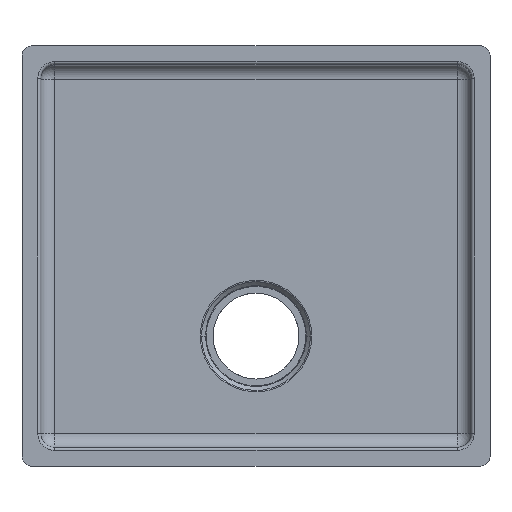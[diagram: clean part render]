
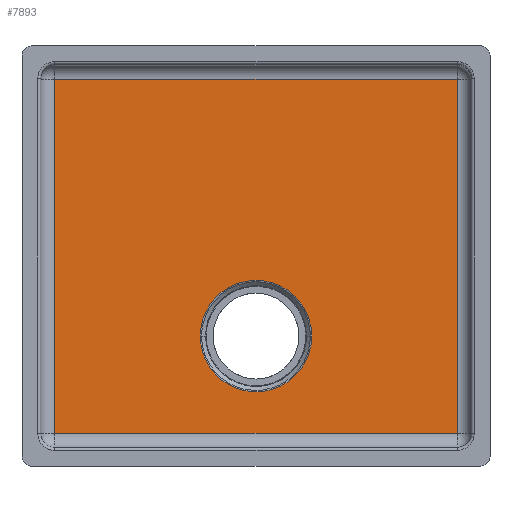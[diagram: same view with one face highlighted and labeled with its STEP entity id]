
A CAD part, top view. The second image highlights one B-rep face of the part: STEP entity #7893.
In plain terms, the highlighted planar face has unit normal (0, 0, 1).
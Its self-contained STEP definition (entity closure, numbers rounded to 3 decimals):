
#6943=CARTESIAN_POINT('Vertex',(-210.5,185.5,-194.)) ;
#7147=CARTESIAN_POINT('Vertex',(210.5,185.5,-194.)) ;
#7317=CARTESIAN_POINT('Vertex',(210.5,-185.5,-194.)) ;
#7510=CARTESIAN_POINT('Vertex',(-210.5,-185.5,-194.)) ;
#7636=CARTESIAN_POINT('Line Origine',(0.,185.5,-194.)) ;
#7653=CARTESIAN_POINT('Line Origine',(-210.5,0.,-194.)) ;
#7670=CARTESIAN_POINT('Line Origine',(210.5,0.,-194.)) ;
#7687=CARTESIAN_POINT('Line Origine',(0.,-185.5,-194.)) ;
#7795=CARTESIAN_POINT('Axis2P3D Location',(225.5,185.5,-194.)) ;
#7807=CARTESIAN_POINT('Control Point',(58.328,-83.5,-194.)) ;
#7808=CARTESIAN_POINT('Control Point',(58.328,-83.891,-194.)) ;
#7809=CARTESIAN_POINT('Control Point',(58.325,-84.283,-194.)) ;
#7810=CARTESIAN_POINT('Control Point',(58.319,-84.677,-194.)) ;
#7811=CARTESIAN_POINT('Control Point',(58.299,-85.462,-194.)) ;
#7812=CARTESIAN_POINT('Control Point',(58.266,-86.247,-194.)) ;
#7813=CARTESIAN_POINT('Control Point',(58.246,-86.64,-194.)) ;
#7814=CARTESIAN_POINT('Control Point',(58.176,-87.816,-194.)) ;
#7815=CARTESIAN_POINT('Control Point',(58.077,-88.99,-194.)) ;
#7816=CARTESIAN_POINT('Control Point',(57.998,-89.772,-194.)) ;
#7817=CARTESIAN_POINT('Control Point',(57.721,-92.113,-194.)) ;
#7818=CARTESIAN_POINT('Control Point',(57.326,-94.437,-194.)) ;
#7819=CARTESIAN_POINT('Control Point',(57.011,-95.977,-194.)) ;
#7820=CARTESIAN_POINT('Control Point',(55.91,-100.563,-194.)) ;
#7821=CARTESIAN_POINT('Control Point',(54.35,-105.021,-194.)) ;
#7822=CARTESIAN_POINT('Control Point',(53.111,-107.918,-194.)) ;
#7823=CARTESIAN_POINT('Control Point',(49.11,-115.768,-194.)) ;
#7824=CARTESIAN_POINT('Control Point',(43.687,-122.768,-194.)) ;
#7825=CARTESIAN_POINT('Control Point',(39.672,-126.821,-194.)) ;
#7826=CARTESIAN_POINT('Control Point',(30.739,-133.875,-194.)) ;
#7827=CARTESIAN_POINT('Control Point',(20.38,-138.593,-194.)) ;
#7828=CARTESIAN_POINT('Control Point',(14.939,-140.31,-194.)) ;
#7829=CARTESIAN_POINT('Control Point',(3.75,-142.393,-194.)) ;
#7830=CARTESIAN_POINT('Control Point',(-7.611,-141.746,-194.)) ;
#7831=CARTESIAN_POINT('Control Point',(-13.225,-140.733,-194.)) ;
#7832=CARTESIAN_POINT('Control Point',(-24.098,-137.368,-194.)) ;
#7833=CARTESIAN_POINT('Control Point',(-33.855,-131.504,-194.)) ;
#7834=CARTESIAN_POINT('Control Point',(-38.352,-127.994,-194.)) ;
#7835=CARTESIAN_POINT('Control Point',(-45.148,-121.21,-194.)) ;
#7836=CARTESIAN_POINT('Control Point',(-50.413,-113.223,-194.)) ;
#7837=CARTESIAN_POINT('Control Point',(-52.281,-109.798,-194.)) ;
#7838=CARTESIAN_POINT('Control Point',(-54.643,-104.451,-194.)) ;
#7839=CARTESIAN_POINT('Control Point',(-56.318,-98.867,-194.)) ;
#7840=CARTESIAN_POINT('Control Point',(-56.799,-96.983,-194.)) ;
#7841=CARTESIAN_POINT('Control Point',(-57.401,-94.13,-194.)) ;
#7842=CARTESIAN_POINT('Control Point',(-57.824,-91.247,-194.)) ;
#7843=CARTESIAN_POINT('Control Point',(-57.945,-90.284,-194.)) ;
#7844=CARTESIAN_POINT('Control Point',(-58.147,-88.352,-194.)) ;
#7845=CARTESIAN_POINT('Control Point',(-58.268,-86.413,-194.)) ;
#7846=CARTESIAN_POINT('Control Point',(-58.308,-85.444,-194.)) ;
#7847=CARTESIAN_POINT('Control Point',(-58.328,-84.471,-194.)) ;
#7848=CARTESIAN_POINT('Control Point',(-58.328,-83.5,-194.)) ;
#7849=CARTESIAN_POINT('Vertex',(-58.328,-83.5,-194.)) ;
#7851=CARTESIAN_POINT('Vertex',(58.328,-83.5,-194.)) ;
#7855=CARTESIAN_POINT('Control Point',(58.328,-83.5,-194.)) ;
#7856=CARTESIAN_POINT('Control Point',(58.328,-82.037,-194.)) ;
#7857=CARTESIAN_POINT('Control Point',(58.283,-80.572,-194.)) ;
#7858=CARTESIAN_POINT('Control Point',(58.191,-79.112,-194.)) ;
#7859=CARTESIAN_POINT('Control Point',(57.916,-76.196,-194.)) ;
#7860=CARTESIAN_POINT('Control Point',(57.458,-73.304,-194.)) ;
#7861=CARTESIAN_POINT('Control Point',(57.184,-71.866,-194.)) ;
#7862=CARTESIAN_POINT('Control Point',(56.228,-67.579,-194.)) ;
#7863=CARTESIAN_POINT('Control Point',(54.871,-63.395,-194.)) ;
#7864=CARTESIAN_POINT('Control Point',(53.793,-60.667,-194.)) ;
#7865=CARTESIAN_POINT('Control Point',(50.14,-52.89,-194.)) ;
#7866=CARTESIAN_POINT('Control Point',(45.106,-45.87,-194.)) ;
#7867=CARTESIAN_POINT('Control Point',(41.243,-41.672,-194.)) ;
#7868=CARTESIAN_POINT('Control Point',(32.576,-34.294,-194.)) ;
#7869=CARTESIAN_POINT('Control Point',(22.398,-29.197,-194.)) ;
#7870=CARTESIAN_POINT('Control Point',(17.024,-27.28,-194.)) ;
#7871=CARTESIAN_POINT('Control Point',(1.062,-23.694,-194.)) ;
#7872=CARTESIAN_POINT('Control Point',(-15.464,-25.733,-194.)) ;
#7873=CARTESIAN_POINT('Control Point',(-25.762,-29.531,-194.)) ;
#7874=CARTESIAN_POINT('Control Point',(-38.632,-38.042,-194.)) ;
#7875=CARTESIAN_POINT('Control Point',(-47.995,-49.906,-194.)) ;
#7876=CARTESIAN_POINT('Control Point',(-50.421,-53.671,-194.)) ;
#7877=CARTESIAN_POINT('Control Point',(-53.499,-59.63,-194.)) ;
#7878=CARTESIAN_POINT('Control Point',(-55.691,-65.946,-194.)) ;
#7879=CARTESIAN_POINT('Control Point',(-56.321,-68.085,-194.)) ;
#7880=CARTESIAN_POINT('Control Point',(-57.11,-71.333,-194.)) ;
#7881=CARTESIAN_POINT('Control Point',(-57.666,-74.627,-194.)) ;
#7882=CARTESIAN_POINT('Control Point',(-57.825,-75.729,-194.)) ;
#7883=CARTESIAN_POINT('Control Point',(-58.09,-77.94,-194.)) ;
#7884=CARTESIAN_POINT('Control Point',(-58.249,-80.162,-194.)) ;
#7885=CARTESIAN_POINT('Control Point',(-58.302,-81.276,-194.)) ;
#7886=CARTESIAN_POINT('Control Point',(-58.328,-82.388,-194.)) ;
#7887=CARTESIAN_POINT('Control Point',(-58.328,-83.5,-194.)) ;
#7637=DIRECTION('Vector Direction',(-1.,0.,0.)) ;
#7654=DIRECTION('Vector Direction',(0.,-1.,0.)) ;
#7671=DIRECTION('Vector Direction',(0.,1.,0.)) ;
#7688=DIRECTION('Vector Direction',(1.,0.,0.)) ;
#7796=DIRECTION('Axis2P3D Direction',(0.,0.,-1.)) ;
#7797=DIRECTION('Axis2P3D XDirection',(1.,0.,0.)) ;
#7798=AXIS2_PLACEMENT_3D('Plane Axis2P3D',#7795,#7796,#7797) ;
#7801=ORIENTED_EDGE('',*,*,#7640,.F.) ;
#7802=ORIENTED_EDGE('',*,*,#7657,.F.) ;
#7803=ORIENTED_EDGE('',*,*,#7691,.F.) ;
#7804=ORIENTED_EDGE('',*,*,#7674,.F.) ;
#7890=ORIENTED_EDGE('',*,*,#7853,.F.) ;
#7891=ORIENTED_EDGE('',*,*,#7888,.F.) ;
#7892=FACE_BOUND('',#7889,.T.) ;
#7638=VECTOR('Line Direction',#7637,1.) ;
#7655=VECTOR('Line Direction',#7654,1.) ;
#7672=VECTOR('Line Direction',#7671,1.) ;
#7689=VECTOR('Line Direction',#7688,1.) ;
#7893=ADVANCED_FACE('Vasca',(#7805,#7892),#7799,.F.) ;
#7806=B_SPLINE_CURVE_WITH_KNOTS('',5,(#7807,#7808,#7809,#7810,#7811,#7812,#7813,#7814,#7815,#7816,#7817,#7818,#7819,#7820,#7821,#7822,#7823,#7824,#7825,#7826,#7827,#7828,#7829,#7830,#7831,#7832,#7833,#7834,#7835,#7836,#7837,#7838,#7839,#7840,#7841,#7842,#7843,#7844,#7845,#7846,#7847,#7848),.UNSPECIFIED.,.F.,.U.,(6,3,3,3,3,3,3,3,3,3,3,3,3,6),(87.448,90.148,92.849,98.25,109.053,130.658,169.503,208.354,247.205,286.052,312.759,326.113,332.79,339.467),.UNSPECIFIED.) ;
#7854=B_SPLINE_CURVE_WITH_KNOTS('',5,(#7855,#7856,#7857,#7858,#7859,#7860,#7861,#7862,#7863,#7864,#7865,#7866,#7867,#7868,#7869,#7870,#7871,#7872,#7873,#7874,#7875,#7876,#7877,#7878,#7879,#7880,#7881,#7882,#7883,#7884,#7885,#7886,#7887),.UNSPECIFIED.,.F.,.U.,(6,3,3,3,3,3,3,3,3,3,6),(91.792,101.854,111.916,132.04,170.889,209.737,282.58,313.195,328.503,336.157,343.811),.UNSPECIFIED.) ;
#7640=EDGE_CURVE('',#6944,#7148,#7639,.F.) ;
#7657=EDGE_CURVE('',#7511,#6944,#7656,.F.) ;
#7674=EDGE_CURVE('',#7148,#7318,#7673,.F.) ;
#7691=EDGE_CURVE('',#7318,#7511,#7690,.F.) ;
#7853=EDGE_CURVE('',#7850,#7852,#7806,.F.) ;
#7888=EDGE_CURVE('',#7852,#7850,#7854,.T.) ;
#7800=EDGE_LOOP('',(#7801,#7802,#7803,#7804)) ;
#7889=EDGE_LOOP('',(#7890,#7891)) ;
#7805=FACE_OUTER_BOUND('',#7800,.T.) ;
#7639=LINE('Line',#7636,#7638) ;
#7656=LINE('Line',#7653,#7655) ;
#7673=LINE('Line',#7670,#7672) ;
#7690=LINE('Line',#7687,#7689) ;
#7799=PLANE('',#7798) ;
#6944=VERTEX_POINT('',#6943) ;
#7148=VERTEX_POINT('',#7147) ;
#7318=VERTEX_POINT('',#7317) ;
#7511=VERTEX_POINT('',#7510) ;
#7850=VERTEX_POINT('',#7849) ;
#7852=VERTEX_POINT('',#7851) ;
